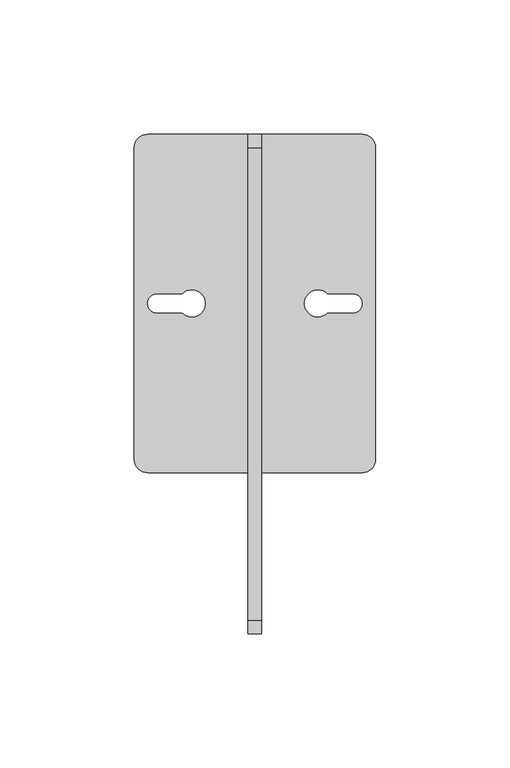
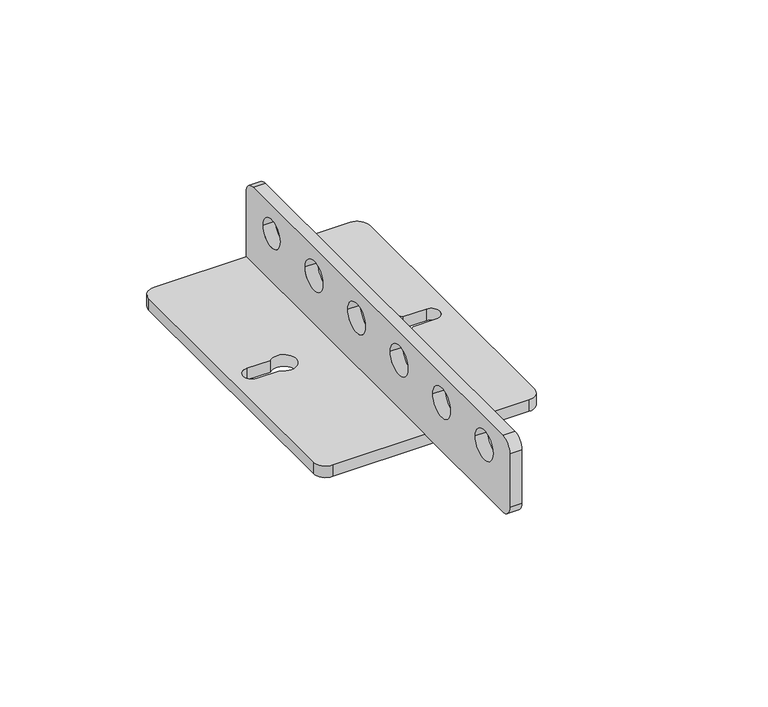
"""IFC4 building model written with IfcOpenShell, lengths in millimetres: proxy geometry, d&b M-Series Flying Adapter 02 : Flying Adapter 02."""

import ifcopenshell
import ifcopenshell.guid

model = None  # the IFC model being written
_history = None  # IfcOwnerHistory: only IFC2X3 demands one
_inside = {}  # id of a spatial element -> (the spatial element, [elements in it])
_under = {}  # id of a project, library or spatial element -> (it, [spatial elements below it])
_declared = {}  # id of a project -> (the project, [libraries it declares])
_typed = {}  # id of a type object -> (the type object, [elements of that type])
_made_of = {}  # id of a material, layer set ... -> (it, [elements and type objects made of it])


def new_model(schema):
    """Start an empty IFC model of exactly this schema.

    Asked for "IFC4X3", IfcOpenShell would pick the latest addendum, in which some entities
    have other attributes; the version numbers below select the first issue.
    IFC2X3 requires an IfcOwnerHistory on every rooted entity: one is made here for all.
    """
    global model, _history
    if schema == "IFC4X3":
        model = ifcopenshell.file(schema_version=(4, 3, 0, 0))
    else:
        model = ifcopenshell.file(schema=schema)
    _inside.clear()
    _under.clear()
    _declared.clear()
    _typed.clear()
    _made_of.clear()
    _history = None
    if model.schema == "IFC2X3":
        org = make("IfcOrganization", Name="unknown")
        user = make(
            "IfcPersonAndOrganization",
            ThePerson=make("IfcPerson", FamilyName="unknown"),
            TheOrganization=org,
        )
        app = make(
            "IfcApplication",
            ApplicationDeveloper=org,
            Version="unknown",
            ApplicationFullName="unknown",
            ApplicationIdentifier="unknown",
        )
        _history = make(
            "IfcOwnerHistory",
            OwningUser=user,
            OwningApplication=app,
            ChangeAction="ADDED",
            CreationDate=0,
        )
    return model


def make(cls, **values):
    """One entity of the class cls with the attributes given. An attribute that is None is left unset."""
    return model.create_entity(
        cls, **{name: value for name, value in values.items() if value is not None}
    )


def rooted(cls, **values):
    """An entity with a GlobalId (a new one), such as an element, a storey or a relation."""
    return make(cls, GlobalId=ifcopenshell.guid.new(), OwnerHistory=_history, **values)


def si_unit(unit_type, name, prefix=None):
    """IfcSIUnit, for example si_unit("LENGTHUNIT", "METRE", prefix="MILLI")."""
    return make("IfcSIUnit", UnitType=unit_type, Prefix=prefix, Name=name)


def assignment(units):
    """IfcUnitAssignment: the units of a project."""
    return None if units is None else make("IfcUnitAssignment", Units=units)


def point(xyz):
    """IfcCartesianPoint."""
    return None if xyz is None else make("IfcCartesianPoint", Coordinates=xyz)


def direction(xyz):
    """IfcDirection."""
    return None if xyz is None else make("IfcDirection", DirectionRatios=xyz)


def frame(location, z_axis=None, x_axis=None):
    """IfcAxis2Placement3D, a coordinate frame: its origin and axes. An axis left out is left unset."""
    return make(
        "IfcAxis2Placement3D",
        Location=point(location),
        Axis=direction(z_axis),
        RefDirection=direction(x_axis),
    )


def frame_2d(location, x_axis=None):
    """IfcAxis2Placement2D, a coordinate frame in the plane: its origin and x axis."""
    return make(
        "IfcAxis2Placement2D", Location=point(location), RefDirection=direction(x_axis)
    )


def origin():
    """The frame at (0, 0, 0) with its axes left unset."""
    return frame((0.0, 0.0, 0.0))


def origin_with_axes():
    """The frame at (0, 0, 0) with the z axis (0, 0, 1) and the x axis (1, 0, 0) written out."""
    return frame((0.0, 0.0, 0.0), z_axis=(0.0, 0.0, 1.0), x_axis=(1.0, 0.0, 0.0))


def place(relative_to, where):
    """IfcLocalPlacement: puts the frame where relative to a parent placement (None: the world)."""
    return make(
        "IfcLocalPlacement", PlacementRelTo=relative_to, RelativePlacement=where
    )


def context(
    kind, dimensions, precision=None, world=None, true_north=None, identifier=None
):
    """IfcGeometricRepresentationContext, for example the 3D "Model" context."""
    return make(
        "IfcGeometricRepresentationContext",
        ContextIdentifier=identifier,
        ContextType=kind,
        CoordinateSpaceDimension=dimensions,
        Precision=precision,
        WorldCoordinateSystem=world,
        TrueNorth=true_north,
    )


def project(units=None, contexts=None):
    """IfcProject with its units and contexts."""
    return rooted(
        "IfcProject",
        Name="project",
        RepresentationContexts=contexts,
        UnitsInContext=assignment(units),
    )


def spatial(cls, under=None, at=None, **own):
    """A site, building, storey or space (cls), placed at a placement, below another one or the project."""
    s = rooted(cls, ObjectPlacement=at, **own)
    if under is not None:
        _under.setdefault(under.id(), (under, []))[1].append(s)
    return s


def polyline(points):
    """IfcPolyline through the points."""
    return make("IfcPolyline", Points=[point(p) for p in points])


def circle_curve(where, radius):
    """IfcCircle in the frame where."""
    return make("IfcCircle", Position=where, Radius=radius)


def trimmed(basis, trim1, trim2, sense, master):
    """IfcTrimmedCurve: the piece of a basis curve between two trims."""
    return make(
        "IfcTrimmedCurve",
        BasisCurve=basis,
        Trim1=trim1,
        Trim2=trim2,
        SenseAgreement=sense,
        MasterRepresentation=master,
    )


def segment(curve, same_sense, transition):
    """IfcCompositeCurveSegment."""
    return make(
        "IfcCompositeCurveSegment",
        Transition=transition,
        SameSense=same_sense,
        ParentCurve=curve,
    )


def composite_curve(segments, self_intersect=None):
    """IfcCompositeCurve: segments joined end to end."""
    return make("IfcCompositeCurve", Segments=segments, SelfIntersect=self_intersect)


def outline(outer, holes=None, kind="AREA"):
    """IfcArbitraryClosedProfileDef: a profile drawn as a closed curve; with holes, ...WithVoids."""
    if holes is None:
        return make("IfcArbitraryClosedProfileDef", ProfileType=kind, OuterCurve=outer)
    return make(
        "IfcArbitraryProfileDefWithVoids",
        ProfileType=kind,
        OuterCurve=outer,
        InnerCurves=holes,
    )


def extrude(swept, where, along, depth):
    """IfcExtrudedAreaSolid: the profile swept, set in the frame where, extruded along a direction by depth."""
    return make(
        "IfcExtrudedAreaSolid",
        SweptArea=swept,
        Position=where,
        ExtrudedDirection=direction(along),
        Depth=depth,
    )


def shape(context_of_items, identifier, shape_type, items):
    """IfcShapeRepresentation: the items that make up one representation, for example the "Body"."""
    return make(
        "IfcShapeRepresentation",
        ContextOfItems=context_of_items,
        RepresentationIdentifier=identifier,
        RepresentationType=shape_type,
        Items=items,
    )


def source(mapping_origin, context_of_items, identifier, shape_type, items):
    """IfcRepresentationMap: a shape defined once, which mapped items show again and again."""
    return make(
        "IfcRepresentationMap",
        MappingOrigin=mapping_origin,
        MappedRepresentation=shape(context_of_items, identifier, shape_type, items),
    )


def transform(
    local_origin,
    x_axis=None,
    y_axis=None,
    z_axis=None,
    scale=None,
    scale2=None,
    scale3=None,
    uniform=True,
):
    """IfcCartesianTransformationOperator3D, or its non-uniform kind. x_axis, y_axis, z_axis: its Axis1, 2, 3."""
    if uniform:
        return make(
            "IfcCartesianTransformationOperator3D",
            Axis1=direction(x_axis),
            Axis2=direction(y_axis),
            LocalOrigin=point(local_origin),
            Scale=scale,
            Axis3=direction(z_axis),
        )
    return make(
        "IfcCartesianTransformationOperator3DnonUniform",
        Axis1=direction(x_axis),
        Axis2=direction(y_axis),
        LocalOrigin=point(local_origin),
        Scale=scale,
        Axis3=direction(z_axis),
        Scale2=scale2,
        Scale3=scale3,
    )


def mapped(mapping_source, mapping_target):
    """IfcMappedItem: shows the shape of a source again, moved by a transform."""
    return make(
        "IfcMappedItem", MappingSource=mapping_source, MappingTarget=mapping_target
    )


def made_of(thing, what):
    """Note that an element or type object is made of a material, layer set ...; save() writes the relation."""
    if what is not None:
        _made_of.setdefault(what.id(), (what, []))[1].append(thing)
    return thing


def element(
    cls,
    number,
    at=None,
    inside=None,
    cuts=None,
    type_object=None,
    material=None,
    context=None,
    identifier="Body",
    shape_type=None,
    held_by="IfcProductDefinitionShape",
    body=None,
    shapes=None,
    **own,
):
    """One element of the class cls, such as IfcWall. Its Tag is "e" and its number.

    at: its placement. inside: the storey or other place that contains it. cuts: it is an
    opening in that element (IfcRelVoidsElement). A single representation is given by context,
    identifier, shape_type and body (its items); several are given by shapes. held_by: the class
    of the entity that holds the representations. save() writes the other relations.
    """
    e = rooted(cls, Tag="e%d" % number, ObjectPlacement=at, **own)
    if body is not None:
        shapes = [shape(context, identifier, shape_type, body)]
    if shapes is not None:
        e.Representation = make(held_by, Representations=shapes)
    if inside is not None:
        _inside.setdefault(inside.id(), (inside, []))[1].append(e)
    if cuts is not None:
        rooted(
            "IfcRelVoidsElement", RelatingBuildingElement=cuts, RelatedOpeningElement=e
        )
    if type_object is not None:
        _typed.setdefault(type_object.id(), (type_object, []))[1].append(e)
    return made_of(e, material)


def aggregate(whole, parts):
    """IfcRelAggregates: a whole, such as a stair, and the parts it consists of."""
    return rooted("IfcRelAggregates", RelatingObject=whole, RelatedObjects=parts)


def save(model, path):
    """Write the relations noted so far, then the file.

    IfcRelAggregates (storeys below a building ...), IfcRelContainedInSpatialStructure (elements
    in a storey), IfcRelDefinesByType, IfcRelAssociatesMaterial and IfcRelDeclares: one each for
    every whole, place, type object, material and project.
    """
    for whole, parts in _under.values():
        aggregate(whole, parts)
    for where, things in _inside.values():
        rooted(
            "IfcRelContainedInSpatialStructure",
            RelatedElements=things,
            RelatingStructure=where,
        )
    for kind, things in _typed.values():
        rooted("IfcRelDefinesByType", RelatedObjects=things, RelatingType=kind)
    for what, things in _made_of.values():
        rooted("IfcRelAssociatesMaterial", RelatedObjects=things, RelatingMaterial=what)
    for by, libraries in _declared.values():
        rooted("IfcRelDeclares", RelatingContext=by, RelatedDefinitions=libraries)
    model.write(path)


def communication_devices_95b38b16(model_context):
    return source(origin(), model_context, "Body", "SweptSolid", [
        extrude(outline(composite_curve([segment(trimmed(circle_curve(frame_2d((-40.0, 58.0)), 5.0), [point((-45.0, 58.0))], [point((-40.0, 63.0))], False, "CARTESIAN"), True, "CONTINUOUS"), segment(polyline([(-40.0, 63.0), (40.0, 63.0)]), True, "CONTINUOUS"), segment(trimmed(circle_curve(frame_2d((40.0, 58.0)), 5.0), [point((40.0, 63.0))], [point((45.0, 58.0))], False, "CARTESIAN"), True, "CONTINUOUS"), segment(polyline([(45.0, 58.0), (45.0, -58.0)]), True, "CONTINUOUS"), segment(trimmed(circle_curve(frame_2d((40.0, -58.0)), 5.0), [point((45.0, -58.0))], [point((40.0, -63.0))], False, "CARTESIAN"), True, "CONTINUOUS"), segment(polyline([(40.0, -63.0), (-40.0, -63.0)]), True, "CONTINUOUS"), segment(trimmed(circle_curve(frame_2d((-40.0, -58.0)), 5.0), [point((-40.0, -63.0))], [point((-45.0, -58.0))], False, "CARTESIAN"), True, "CONTINUOUS"), segment(polyline([(-45.0, -58.0), (-45.0, 58.0)]), True, "CONTINUOUS")], self_intersect=False), holes=[composite_curve([segment(polyline([(-36.5, -3.5), (-27.0707142, -3.5)]), True, "CONTINUOUS"), segment(trimmed(circle_curve(frame_2d((-23.5, 0.0)), 5.0), [point((-27.0707142, -3.5))], [point((-27.0707142, 3.5))], True, "CARTESIAN"), True, "CONTINUOUS"), segment(polyline([(-27.0707142, 3.5), (-36.5, 3.5)]), True, "CONTINUOUS"), segment(trimmed(circle_curve(frame_2d((-36.5, 0.0)), 3.5), [point((-36.5, 3.5))], [point((-36.5, -3.5))], True, "CARTESIAN"), True, "CONTINUOUS")], self_intersect=False), composite_curve([segment(trimmed(circle_curve(frame_2d((36.5, 0.0)), 3.5), [point((36.5, -3.5))], [point((36.5, 3.5))], True, "CARTESIAN"), True, "CONTINUOUS"), segment(polyline([(36.5, 3.5), (27.0707142, 3.5)]), True, "CONTINUOUS"), segment(trimmed(circle_curve(frame_2d((23.5, 0.0)), 5.0), [point((27.0707142, 3.5))], [point((27.0707142, -3.5))], True, "CARTESIAN"), True, "CONTINUOUS"), segment(polyline([(27.0707142, -3.5), (36.5, -3.5)]), True, "CONTINUOUS")], self_intersect=False)]), origin_with_axes(), (0.0, 0.0, 1.0), 5.0),
        extrude(outline(composite_curve([segment(trimmed(circle_curve(frame_2d((-118.0, 10.0)), 5.0), [point((-118.0, 5.0))], [point((-123.0, 10.0))], False, "CARTESIAN"), True, "CONTINUOUS"), segment(polyline([(-123.0, 10.0), (-123.0, 33.0)]), True, "CONTINUOUS"), segment(trimmed(circle_curve(frame_2d((-118.0, 33.0)), 5.0), [point((-123.0, 33.0))], [point((-118.0, 38.0))], False, "CARTESIAN"), True, "CONTINUOUS"), segment(polyline([(-118.0, 38.0), (58.0, 38.0)]), True, "CONTINUOUS"), segment(trimmed(circle_curve(frame_2d((58.0, 33.0)), 5.0), [point((58.0, 38.0))], [point((63.0, 33.0))], False, "CARTESIAN"), True, "CONTINUOUS"), segment(polyline([(63.0, 33.0), (63.0, 5.0), (-118.0, 5.0)]), True, "CONTINUOUS")], self_intersect=False), holes=[composite_curve([segment(trimmed(circle_curve(frame_2d((-75.0, 26.0)), 6.25), [point((-68.75, 26.0))], [point((-81.25, 26.0))], True, "CARTESIAN"), True, "CONTINUOUS"), segment(trimmed(circle_curve(frame_2d((-75.0, 26.0)), 6.25), [point((-81.25, 26.0))], [point((-68.75, 26.0))], True, "CARTESIAN"), True, "CONTINUOUS")], self_intersect=False), composite_curve([segment(trimmed(circle_curve(frame_2d((-45.0, 26.0)), 6.25), [point((-38.75, 26.0))], [point((-51.25, 26.0))], True, "CARTESIAN"), True, "CONTINUOUS"), segment(trimmed(circle_curve(frame_2d((-45.0, 26.0)), 6.25), [point((-51.25, 26.0))], [point((-38.75, 26.0))], True, "CARTESIAN"), True, "CONTINUOUS")], self_intersect=False), composite_curve([segment(trimmed(circle_curve(frame_2d((-15.0, 26.0)), 6.25), [point((-8.75, 26.0))], [point((-21.25, 26.0))], True, "CARTESIAN"), True, "CONTINUOUS"), segment(trimmed(circle_curve(frame_2d((-15.0, 26.0)), 6.25), [point((-21.25, 26.0))], [point((-8.75, 26.0))], True, "CARTESIAN"), True, "CONTINUOUS")], self_intersect=False), composite_curve([segment(trimmed(circle_curve(frame_2d((15.0, 26.0)), 6.25), [point((21.25, 26.0))], [point((8.75, 26.0))], True, "CARTESIAN"), True, "CONTINUOUS"), segment(trimmed(circle_curve(frame_2d((15.0, 26.0)), 6.25), [point((8.75, 26.0))], [point((21.25, 26.0))], True, "CARTESIAN"), True, "CONTINUOUS")], self_intersect=False), composite_curve([segment(trimmed(circle_curve(frame_2d((45.0, 26.0)), 6.0), [point((51.0, 26.0))], [point((39.0, 26.0))], True, "CARTESIAN"), True, "CONTINUOUS"), segment(trimmed(circle_curve(frame_2d((45.0, 26.0)), 6.0), [point((39.0, 26.0))], [point((51.0, 26.0))], True, "CARTESIAN"), True, "CONTINUOUS")], self_intersect=False), composite_curve([segment(trimmed(circle_curve(frame_2d((-105.0, 26.0)), 6.25), [point((-98.75, 26.0))], [point((-111.25, 26.0))], True, "CARTESIAN"), True, "CONTINUOUS"), segment(trimmed(circle_curve(frame_2d((-105.0, 26.0)), 6.25), [point((-111.25, 26.0))], [point((-98.75, 26.0))], True, "CARTESIAN"), True, "CONTINUOUS")], self_intersect=False)]), frame((-2.5, 0.0, 0.0), z_axis=(1.0, 0.0, 0.0), x_axis=(0.0, 1.0, 0.0)), (0.0, 0.0, 1.0), 5.0),
    ])


if __name__ == "__main__":
    model = new_model("IFC4")
    model_context = context("Model", 3, world=origin())
    ifc_project = project(units=[si_unit("LENGTHUNIT", "METRE", prefix="MILLI")], contexts=[model_context])
    site = spatial("IfcSite", under=ifc_project)
    building = spatial("IfcBuilding", under=site)
    placement = place(None, origin())
    communication_devices_shape = communication_devices_95b38b16(model_context)
    element("IfcBuildingElementProxy", 1, Name="d&b M-Series Flying Adapter 02 : Flying Adapter 02", ObjectType="d&b M-Series Flying Adapter 02 : Flying Adapter 02", at=placement, inside=building, context=model_context, shape_type="MappedRepresentation", body=[
        mapped(communication_devices_shape, transform((0.0, 0.0, 0.0), x_axis=(1.0, 0.0, 0.0), y_axis=(0.0, 1.0, 0.0), z_axis=(0.0, 0.0, 1.0))),
    ])
    save(model, "model.ifc")
